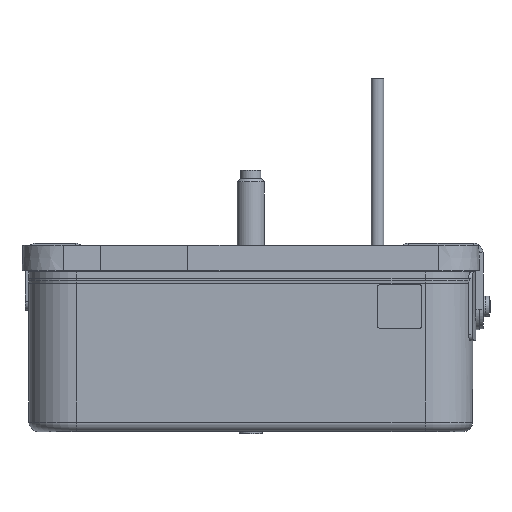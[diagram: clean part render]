
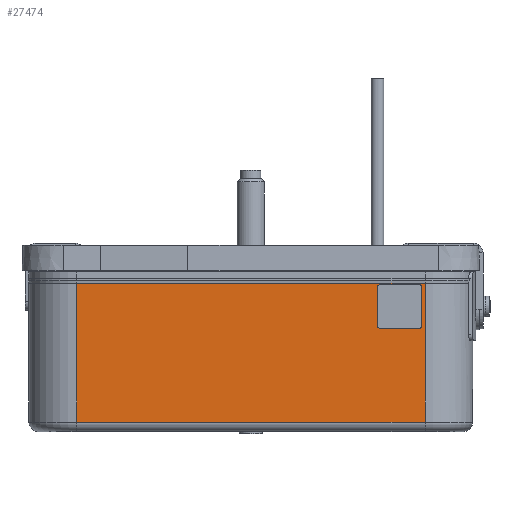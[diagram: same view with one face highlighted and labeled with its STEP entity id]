
A CAD part, left-side view. The second image highlights one B-rep face of the part: STEP entity #27474.
In plain terms, the highlighted planar face has unit normal (-1, 0, 0).
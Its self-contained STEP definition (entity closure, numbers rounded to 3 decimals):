
#1720=FACE_BOUND('',#4605,.T.);
#3060=FACE_OUTER_BOUND('',#4604,.T.);
#4604=EDGE_LOOP('',(#23555,#23556,#23557,#23558));
#4605=EDGE_LOOP('',(#23559,#23560,#23561,#23562,#23563,#23564,#23565,#23566));
#4856=CIRCLE('',#28596,0.254);
#4857=CIRCLE('',#28597,0.254);
#4858=CIRCLE('',#28598,0.254);
#4859=CIRCLE('',#28599,0.254);
#7404=LINE('',#47505,#9995);
#7408=LINE('',#47517,#9999);
#7409=LINE('',#47519,#10000);
#7410=LINE('',#47520,#10001);
#7411=LINE('',#47523,#10002);
#7412=LINE('',#47527,#10003);
#7413=LINE('',#47531,#10004);
#7414=LINE('',#47535,#10005);
#9995=VECTOR('',#33254,10.);
#9999=VECTOR('',#33268,10.);
#10000=VECTOR('',#33269,10.);
#10001=VECTOR('',#33270,10.);
#10002=VECTOR('',#33271,10.);
#10003=VECTOR('',#33274,10.);
#10004=VECTOR('',#33277,10.);
#10005=VECTOR('',#33280,10.);
#12507=VERTEX_POINT('',#47502);
#12508=VERTEX_POINT('',#47504);
#12511=VERTEX_POINT('',#47516);
#12512=VERTEX_POINT('',#47518);
#12513=VERTEX_POINT('',#47521);
#12514=VERTEX_POINT('',#47522);
#12515=VERTEX_POINT('',#47524);
#12516=VERTEX_POINT('',#47526);
#12517=VERTEX_POINT('',#47528);
#12518=VERTEX_POINT('',#47530);
#12519=VERTEX_POINT('',#47532);
#12520=VERTEX_POINT('',#47534);
#16219=EDGE_CURVE('',#12508,#12507,#7404,.T.);
#16225=EDGE_CURVE('',#12511,#12507,#7408,.T.);
#16226=EDGE_CURVE('',#12512,#12511,#7409,.T.);
#16227=EDGE_CURVE('',#12508,#12512,#7410,.T.);
#16228=EDGE_CURVE('',#12513,#12514,#7411,.T.);
#16229=EDGE_CURVE('',#12514,#12515,#4856,.T.);
#16230=EDGE_CURVE('',#12515,#12516,#7412,.T.);
#16231=EDGE_CURVE('',#12516,#12517,#4857,.T.);
#16232=EDGE_CURVE('',#12517,#12518,#7413,.T.);
#16233=EDGE_CURVE('',#12518,#12519,#4858,.T.);
#16234=EDGE_CURVE('',#12519,#12520,#7414,.T.);
#16235=EDGE_CURVE('',#12520,#12513,#4859,.T.);
#23555=ORIENTED_EDGE('',*,*,#16219,.T.);
#23556=ORIENTED_EDGE('',*,*,#16225,.F.);
#23557=ORIENTED_EDGE('',*,*,#16226,.F.);
#23558=ORIENTED_EDGE('',*,*,#16227,.F.);
#23559=ORIENTED_EDGE('',*,*,#16228,.T.);
#23560=ORIENTED_EDGE('',*,*,#16229,.T.);
#23561=ORIENTED_EDGE('',*,*,#16230,.T.);
#23562=ORIENTED_EDGE('',*,*,#16231,.T.);
#23563=ORIENTED_EDGE('',*,*,#16232,.T.);
#23564=ORIENTED_EDGE('',*,*,#16233,.T.);
#23565=ORIENTED_EDGE('',*,*,#16234,.T.);
#23566=ORIENTED_EDGE('',*,*,#16235,.T.);
#24722=PLANE('',#28595);
#27474=ADVANCED_FACE('',(#3060,#1720),#24722,.T.);
#28595=AXIS2_PLACEMENT_3D('',#47515,#33266,#33267);
#28596=AXIS2_PLACEMENT_3D('',#47525,#33272,#33273);
#28597=AXIS2_PLACEMENT_3D('',#47529,#33275,#33276);
#28598=AXIS2_PLACEMENT_3D('',#47533,#33278,#33279);
#28599=AXIS2_PLACEMENT_3D('',#47536,#33281,#33282);
#33254=DIRECTION('',(0.,1.,0.));
#33266=DIRECTION('center_axis',(-1.,0.,0.));
#33267=DIRECTION('ref_axis',(0.,1.,0.));
#33268=DIRECTION('',(0.,0.,1.));
#33269=DIRECTION('',(0.,1.,0.));
#33270=DIRECTION('',(0.,0.,-1.));
#33271=DIRECTION('',(0.,1.,0.));
#33272=DIRECTION('center_axis',(1.,0.,0.));
#33273=DIRECTION('ref_axis',(0.,0.,1.));
#33274=DIRECTION('',(0.,0.,1.));
#33275=DIRECTION('center_axis',(1.,0.,0.));
#33276=DIRECTION('ref_axis',(0.,-1.,0.));
#33277=DIRECTION('',(0.,-1.,0.));
#33278=DIRECTION('center_axis',(1.,0.,0.));
#33279=DIRECTION('ref_axis',(0.,0.,
-1.));
#33280=DIRECTION('',(0.,0.,-1.));
#33281=DIRECTION('center_axis',(1.,0.,0.));
#33282=DIRECTION('ref_axis',(0.,1.,0.));
#47502=CARTESIAN_POINT('',(2.342,7.065,-6.363));
#47504=CARTESIAN_POINT('',(2.342,-20.875,-6.363));
#47505=CARTESIAN_POINT('',(2.342,-15.795,-6.363));
#47515=CARTESIAN_POINT('Origin',(2.342,-24.685,-5.956));
#47516=CARTESIAN_POINT('',(2.342,7.065,-17.488));
#47517=CARTESIAN_POINT('',(2.342,7.065,-5.956));
#47518=CARTESIAN_POINT('',(2.342,-20.875,-17.488));
#47519=CARTESIAN_POINT('',(2.342,-15.795,-17.488));
#47520=CARTESIAN_POINT('',(2.342,-20.875,-5.956));
#47521=CARTESIAN_POINT('',(2.342,-20.367,-9.995));
#47522=CARTESIAN_POINT('',(2.342,-17.319,-9.995));
#47523=CARTESIAN_POINT('',(2.342,-21.002,-9.995));
#47524=CARTESIAN_POINT('',(2.342,-17.065,-9.741));
#47525=CARTESIAN_POINT('Origin',(2.342,-17.319,-9.741));
#47526=CARTESIAN_POINT('',(2.342,-17.065,-6.693));
#47527=CARTESIAN_POINT('',(2.342,-17.065,-6.325));
#47528=CARTESIAN_POINT('',(2.342,-17.319,-6.439));
#47529=CARTESIAN_POINT('Origin',(2.342,-17.319,-6.693));
#47530=CARTESIAN_POINT('',(2.342,-20.367,-6.439));
#47531=CARTESIAN_POINT('',(2.342,-22.526,-6.439));
#47532=CARTESIAN_POINT('',(2.342,-20.621,-6.693));
#47533=CARTESIAN_POINT('Origin',(2.342,-20.367,-6.693));
#47534=CARTESIAN_POINT('',(2.342,-20.621,-9.741));
#47535=CARTESIAN_POINT('',(2.342,-20.621,-7.849));
#47536=CARTESIAN_POINT('Origin',(2.342,-20.367,-9.741));
